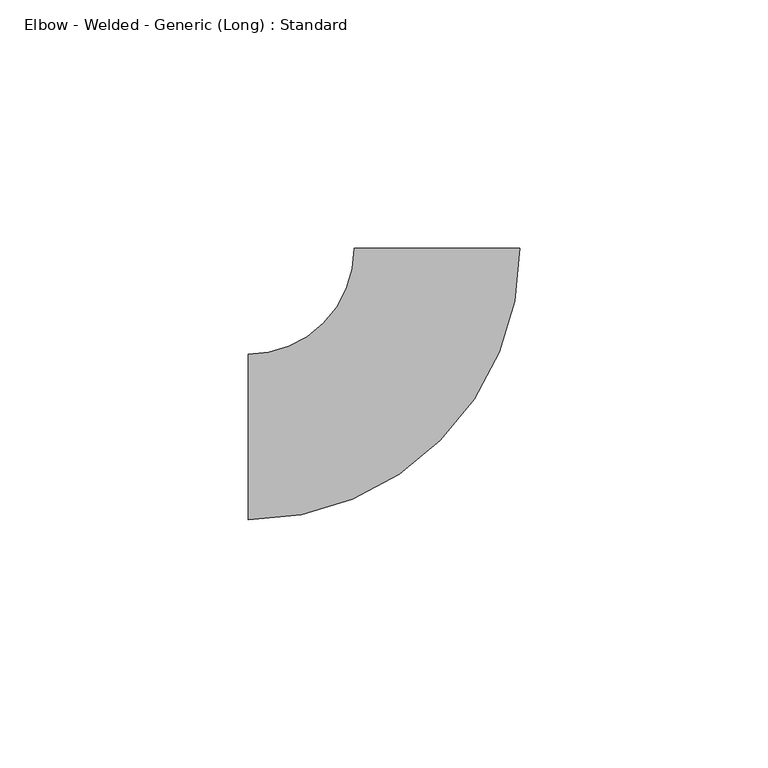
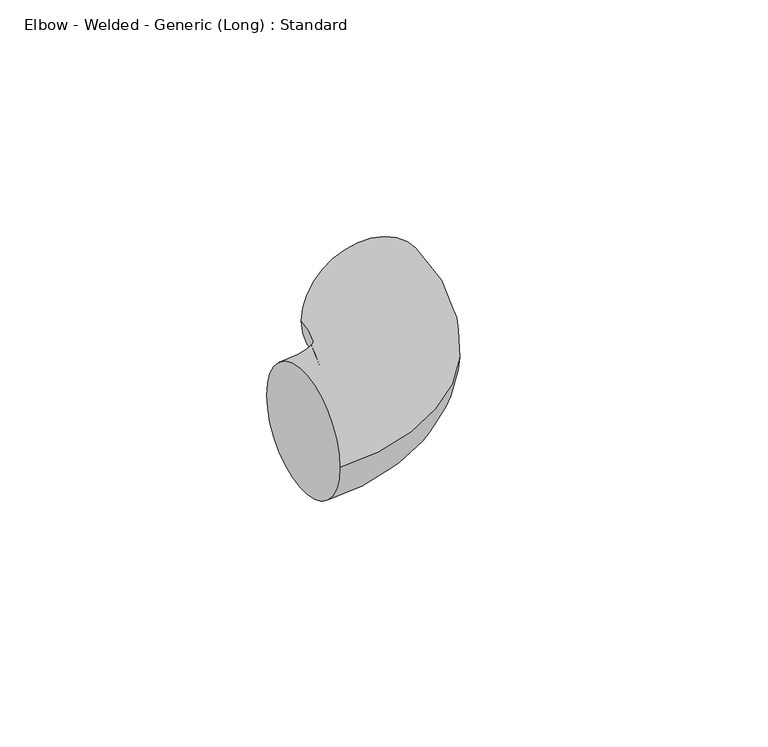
"""IFC4 building model written with IfcOpenShell, lengths in millimetres: pipe fitting geometry, Elbow - Welded - Generic (Long) : Standard."""

import ifcopenshell
import ifcopenshell.guid

model = None  # the IFC model being written
_history = None  # IfcOwnerHistory: only IFC2X3 demands one
_inside = {}  # id of a spatial element -> (the spatial element, [elements in it])
_under = {}  # id of a project, library or spatial element -> (it, [spatial elements below it])
_declared = {}  # id of a project -> (the project, [libraries it declares])
_typed = {}  # id of a type object -> (the type object, [elements of that type])
_made_of = {}  # id of a material, layer set ... -> (it, [elements and type objects made of it])


def new_model(schema):
    """Start an empty IFC model of exactly this schema.

    Asked for "IFC4X3", IfcOpenShell would pick the latest addendum, in which some entities
    have other attributes; the version numbers below select the first issue.
    IFC2X3 requires an IfcOwnerHistory on every rooted entity: one is made here for all.
    """
    global model, _history
    if schema == "IFC4X3":
        model = ifcopenshell.file(schema_version=(4, 3, 0, 0))
    else:
        model = ifcopenshell.file(schema=schema)
    _inside.clear()
    _under.clear()
    _declared.clear()
    _typed.clear()
    _made_of.clear()
    _history = None
    if model.schema == "IFC2X3":
        org = make("IfcOrganization", Name="unknown")
        user = make(
            "IfcPersonAndOrganization",
            ThePerson=make("IfcPerson", FamilyName="unknown"),
            TheOrganization=org,
        )
        app = make(
            "IfcApplication",
            ApplicationDeveloper=org,
            Version="unknown",
            ApplicationFullName="unknown",
            ApplicationIdentifier="unknown",
        )
        _history = make(
            "IfcOwnerHistory",
            OwningUser=user,
            OwningApplication=app,
            ChangeAction="ADDED",
            CreationDate=0,
        )
    return model


def make(cls, **values):
    """One entity of the class cls with the attributes given. An attribute that is None is left unset."""
    return model.create_entity(
        cls, **{name: value for name, value in values.items() if value is not None}
    )


def rooted(cls, **values):
    """An entity with a GlobalId (a new one), such as an element, a storey or a relation."""
    return make(cls, GlobalId=ifcopenshell.guid.new(), OwnerHistory=_history, **values)


def si_unit(unit_type, name, prefix=None):
    """IfcSIUnit, for example si_unit("LENGTHUNIT", "METRE", prefix="MILLI")."""
    return make("IfcSIUnit", UnitType=unit_type, Prefix=prefix, Name=name)


def assignment(units):
    """IfcUnitAssignment: the units of a project."""
    return None if units is None else make("IfcUnitAssignment", Units=units)


def point(xyz):
    """IfcCartesianPoint."""
    return None if xyz is None else make("IfcCartesianPoint", Coordinates=xyz)


def direction(xyz):
    """IfcDirection."""
    return None if xyz is None else make("IfcDirection", DirectionRatios=xyz)


def frame(location, z_axis=None, x_axis=None):
    """IfcAxis2Placement3D, a coordinate frame: its origin and axes. An axis left out is left unset."""
    return make(
        "IfcAxis2Placement3D",
        Location=point(location),
        Axis=direction(z_axis),
        RefDirection=direction(x_axis),
    )


def origin():
    """The frame at (0, 0, 0) with its axes left unset."""
    return frame((0.0, 0.0, 0.0))


def place(relative_to, where):
    """IfcLocalPlacement: puts the frame where relative to a parent placement (None: the world)."""
    return make(
        "IfcLocalPlacement", PlacementRelTo=relative_to, RelativePlacement=where
    )


def context(
    kind, dimensions, precision=None, world=None, true_north=None, identifier=None
):
    """IfcGeometricRepresentationContext, for example the 3D "Model" context."""
    return make(
        "IfcGeometricRepresentationContext",
        ContextIdentifier=identifier,
        ContextType=kind,
        CoordinateSpaceDimension=dimensions,
        Precision=precision,
        WorldCoordinateSystem=world,
        TrueNorth=true_north,
    )


def project(units=None, contexts=None):
    """IfcProject with its units and contexts."""
    return rooted(
        "IfcProject",
        Name="project",
        RepresentationContexts=contexts,
        UnitsInContext=assignment(units),
    )


def spatial(cls, under=None, at=None, **own):
    """A site, building, storey or space (cls), placed at a placement, below another one or the project."""
    s = rooted(cls, ObjectPlacement=at, **own)
    if under is not None:
        _under.setdefault(under.id(), (under, []))[1].append(s)
    return s


def circle_curve(where, radius):
    """IfcCircle in the frame where."""
    return make("IfcCircle", Position=where, Radius=radius)


def ellipse_curve(where, semi_axis1, semi_axis2):
    """IfcEllipse in the frame where."""
    return make(
        "IfcEllipse", Position=where, SemiAxis1=semi_axis1, SemiAxis2=semi_axis2
    )


def trimmed(basis, trim1, trim2, sense, master):
    """IfcTrimmedCurve: the piece of a basis curve between two trims."""
    return make(
        "IfcTrimmedCurve",
        BasisCurve=basis,
        Trim1=trim1,
        Trim2=trim2,
        SenseAgreement=sense,
        MasterRepresentation=master,
    )


def shape(context_of_items, identifier, shape_type, items):
    """IfcShapeRepresentation: the items that make up one representation, for example the "Body"."""
    return make(
        "IfcShapeRepresentation",
        ContextOfItems=context_of_items,
        RepresentationIdentifier=identifier,
        RepresentationType=shape_type,
        Items=items,
    )


def source(mapping_origin, context_of_items, identifier, shape_type, items):
    """IfcRepresentationMap: a shape defined once, which mapped items show again and again."""
    return make(
        "IfcRepresentationMap",
        MappingOrigin=mapping_origin,
        MappedRepresentation=shape(context_of_items, identifier, shape_type, items),
    )


def transform(
    local_origin,
    x_axis=None,
    y_axis=None,
    z_axis=None,
    scale=None,
    scale2=None,
    scale3=None,
    uniform=True,
):
    """IfcCartesianTransformationOperator3D, or its non-uniform kind. x_axis, y_axis, z_axis: its Axis1, 2, 3."""
    if uniform:
        return make(
            "IfcCartesianTransformationOperator3D",
            Axis1=direction(x_axis),
            Axis2=direction(y_axis),
            LocalOrigin=point(local_origin),
            Scale=scale,
            Axis3=direction(z_axis),
        )
    return make(
        "IfcCartesianTransformationOperator3DnonUniform",
        Axis1=direction(x_axis),
        Axis2=direction(y_axis),
        LocalOrigin=point(local_origin),
        Scale=scale,
        Axis3=direction(z_axis),
        Scale2=scale2,
        Scale3=scale3,
    )


def mapped(mapping_source, mapping_target):
    """IfcMappedItem: shows the shape of a source again, moved by a transform."""
    return make(
        "IfcMappedItem", MappingSource=mapping_source, MappingTarget=mapping_target
    )


def made_of(thing, what):
    """Note that an element or type object is made of a material, layer set ...; save() writes the relation."""
    if what is not None:
        _made_of.setdefault(what.id(), (what, []))[1].append(thing)
    return thing


def element(
    cls,
    number,
    at=None,
    inside=None,
    cuts=None,
    type_object=None,
    material=None,
    context=None,
    identifier="Body",
    shape_type=None,
    held_by="IfcProductDefinitionShape",
    body=None,
    shapes=None,
    **own,
):
    """One element of the class cls, such as IfcWall. Its Tag is "e" and its number.

    at: its placement. inside: the storey or other place that contains it. cuts: it is an
    opening in that element (IfcRelVoidsElement). A single representation is given by context,
    identifier, shape_type and body (its items); several are given by shapes. held_by: the class
    of the entity that holds the representations. save() writes the other relations.
    """
    e = rooted(cls, Tag="e%d" % number, ObjectPlacement=at, **own)
    if body is not None:
        shapes = [shape(context, identifier, shape_type, body)]
    if shapes is not None:
        e.Representation = make(held_by, Representations=shapes)
    if inside is not None:
        _inside.setdefault(inside.id(), (inside, []))[1].append(e)
    if cuts is not None:
        rooted(
            "IfcRelVoidsElement", RelatingBuildingElement=cuts, RelatedOpeningElement=e
        )
    if type_object is not None:
        _typed.setdefault(type_object.id(), (type_object, []))[1].append(e)
    return made_of(e, material)


def aggregate(whole, parts):
    """IfcRelAggregates: a whole, such as a stair, and the parts it consists of."""
    return rooted("IfcRelAggregates", RelatingObject=whole, RelatedObjects=parts)


def save(model, path):
    """Write the relations noted so far, then the file.

    IfcRelAggregates (storeys below a building ...), IfcRelContainedInSpatialStructure (elements
    in a storey), IfcRelDefinesByType, IfcRelAssociatesMaterial and IfcRelDeclares: one each for
    every whole, place, type object, material and project.
    """
    for whole, parts in _under.values():
        aggregate(whole, parts)
    for where, things in _inside.values():
        rooted(
            "IfcRelContainedInSpatialStructure",
            RelatedElements=things,
            RelatingStructure=where,
        )
    for kind, things in _typed.values():
        rooted("IfcRelDefinesByType", RelatedObjects=things, RelatingType=kind)
    for what, things in _made_of.values():
        rooted("IfcRelAssociatesMaterial", RelatedObjects=things, RelatingMaterial=what)
    for by, libraries in _declared.values():
        rooted("IfcRelDeclares", RelatingContext=by, RelatedDefinitions=libraries)
    model.write(path)


def plane_surface(at):
    """IfcPlane: the flat surface through the origin of the frame at, square to its z axis."""
    return make("IfcPlane", Position=at)


def revolved_surface(curve, axis_point, axis_direction):
    """IfcSurfaceOfRevolution: the curve turned about the line through axis_point along axis_direction."""
    return make(
        "IfcSurfaceOfRevolution",
        SweptCurve=make("IfcArbitraryOpenProfileDef", ProfileType="CURVE", Curve=curve),
        AxisPosition=make("IfcAxis1Placement", Location=point(axis_point), Axis=direction(axis_direction)),
    )


def advanced_brep(points, edges, surfaces, faces):
    """IfcAdvancedBrep: a solid bounded by faces that lie on surfaces and meet in shared edges.

    An edge is (start, end): straight between two places in points (the first is 0);
    or (start, end, curve); or (start, end, curve, False) where it runs against its curve.
    A face is (place in surfaces, loops), or (place, loops, False) where it looks against
    its surface's normal. A loop lists edges by number (the first is 1), with a minus sign
    where the edge is run from its end to its start. The first loop is the outer one.
    """
    corners = [point(p) for p in points]
    vertices = [make("IfcVertexPoint", VertexGeometry=c) for c in corners]
    made = []
    for start, end, *more in edges:
        made.append(
            make(
                "IfcEdgeCurve",
                EdgeStart=vertices[start],
                EdgeEnd=vertices[end],
                EdgeGeometry=more[0] if more else make("IfcPolyline", Points=[corners[start], corners[end]]),
                SameSense=more[1] if len(more) > 1 else True,
            )
        )
    hull = []
    for where, loops, *sense in faces:
        bounds = []
        for j, loop in enumerate(loops):
            ring = [make("IfcOrientedEdge", EdgeElement=made[abs(k) - 1], Orientation=k > 0) for k in loop]
            bounds.append(
                make(
                    "IfcFaceOuterBound" if j == 0 else "IfcFaceBound",
                    Bound=make("IfcEdgeLoop", EdgeList=ring),
                    Orientation=True,
                )
            )
        hull.append(make("IfcAdvancedFace", Bounds=bounds, FaceSurface=surfaces[where], SameSense=sense[0] if sense else True))
    return make("IfcAdvancedBrep", Outer=make("IfcClosedShell", CfsFaces=hull))


def elbow_welded_generic_long_standard_dfa74691(model_context):
    return source(origin(), model_context, "Body", "AdvancedBrep", [
        advanced_brep(
        [(-38.1, -16.66875, 0.0), (-38.1, 16.66875, 0.0), (16.6740489, 38.0976813, 0.0), (-16.6634507, 38.102318, 0.0)],
        [
            (0, 1, circle_curve(frame((-38.1, 0.0, 0.0), z_axis=(-1.0, 0.0, 0.0), x_axis=(0.0, 1.0, 0.0)), 16.66875)),
            (1, 0, circle_curve(frame((-38.1, 0.0, 0.0), z_axis=(-1.0, 0.0, 0.0), x_axis=(0.0, 1.0, 0.0)), 16.66875)),
            (2, 3, circle_curve(frame((0.0052991, 38.0999996, 0.0), z_axis=(0.00013908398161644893, 0.9999999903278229, 0.0), x_axis=(-0.9999999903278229, 0.00013908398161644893, 0.0)), 16.66875)),
            (3, 2, circle_curve(frame((0.0052991, 38.0999996, 0.0), z_axis=(0.00013908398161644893, 0.9999999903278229, 0.0), x_axis=(-0.9999999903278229, 0.00013908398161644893, 0.0)), 16.66875)),
            (3, 1, circle_curve(frame((-38.1, 38.1052995, 0.0), z_axis=(0.0, 0.0, -1.0), x_axis=(0.0, -1.0, 0.0)), 21.4365495)),
            (0, 2, circle_curve(frame((-38.1, 38.1052995, 0.0), z_axis=(0.0, 0.0, 1.0), x_axis=(0.0, -1.0, 0.0)), 54.7740495)),
        ],
        [
            plane_surface(frame((-38.1, 0.0, 0.0), z_axis=(-1.0, 0.0, 0.0), x_axis=(0.0, 0.0, 1.0))),
            plane_surface(frame((0.0052991, 38.0999996, 0.0), z_axis=(0.00013908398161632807, 0.999999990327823, 0.0), x_axis=(0.0, 0.0, 1.0))),
            revolved_surface(trimmed(ellipse_curve(frame((-38.1, 0.0, 0.0), z_axis=(-1.0, 0.0, 0.0), x_axis=(0.0, 1.0, 0.0)), 16.66875, 16.66875), [point((-38.1, -16.66875, 0.0))], [point((-38.1, 16.66875, 0.0))], True, "CARTESIAN"), (-38.1, 38.1052995, 0.0), (0.0, 0.0, 1.0)),
            revolved_surface(trimmed(ellipse_curve(frame((-38.1, 0.0, 0.0), z_axis=(-1.0, 0.0, 0.0), x_axis=(0.0, 1.0, 0.0)), 16.66875, 16.66875), [point((-38.1, 16.66875, 0.0))], [point((-38.1, -16.66875, 0.0))], True, "CARTESIAN"), (-38.1, 38.1052995, 0.0), (0.0, 0.0, 1.0)),
        ],
        [
            (0, [[1, 2]]),
            (1, [[3, 4]]),
            (2, [[5, -1, 6, -4]]),
            (3, [[-6, -2, -5, -3]]),
        ],
    ),
    ])


if __name__ == "__main__":
    model = new_model("IFC4")
    model_context = context("Model", 3, world=origin())
    ifc_project = project(units=[si_unit("LENGTHUNIT", "METRE", prefix="MILLI")], contexts=[model_context])
    site = spatial("IfcSite", under=ifc_project)
    building = spatial("IfcBuilding", under=site)
    placement = place(None, origin())
    elbow_welded_generic_long_standard_shape = elbow_welded_generic_long_standard_dfa74691(model_context)
    element("IfcPipeFitting", 1, ObjectType="Elbow - Welded - Generic (Long) : Standard", at=placement, inside=building, context=model_context, shape_type="MappedRepresentation", body=[
        mapped(elbow_welded_generic_long_standard_shape, transform((0.0, 0.0, 0.0), x_axis=(1.0, 0.0, 0.0), y_axis=(0.0, 1.0, 0.0), z_axis=(0.0, 0.0, 1.0))),
    ])
    save(model, "model.ifc")
